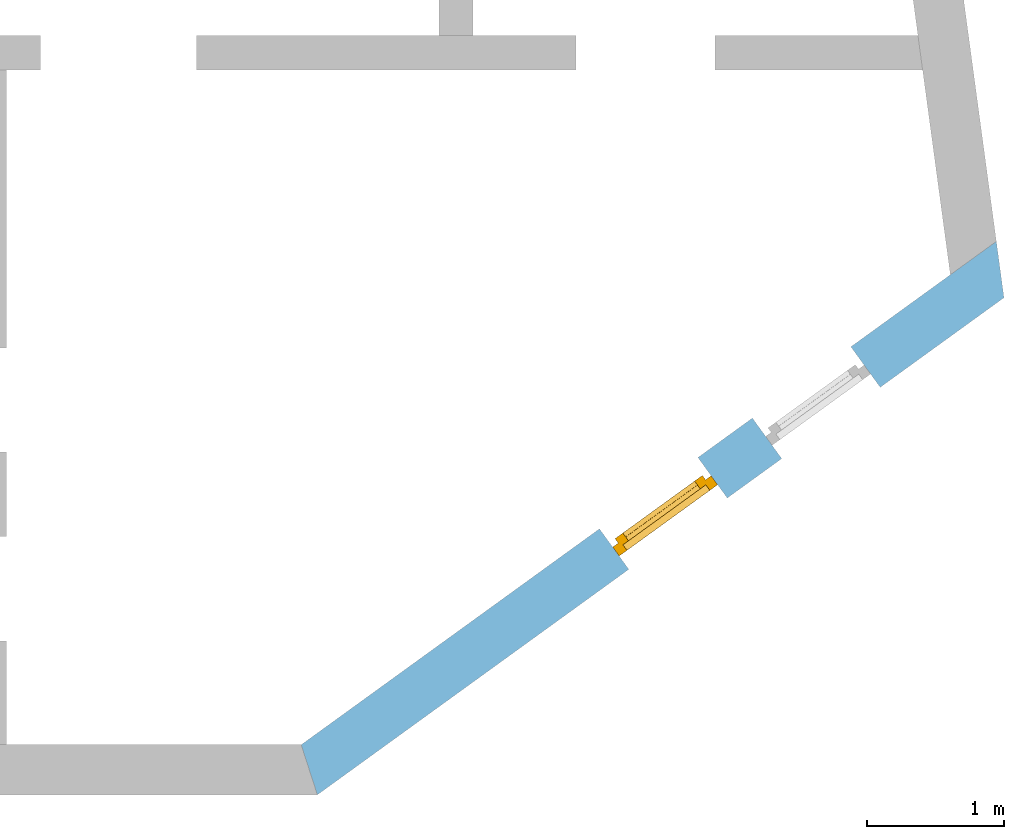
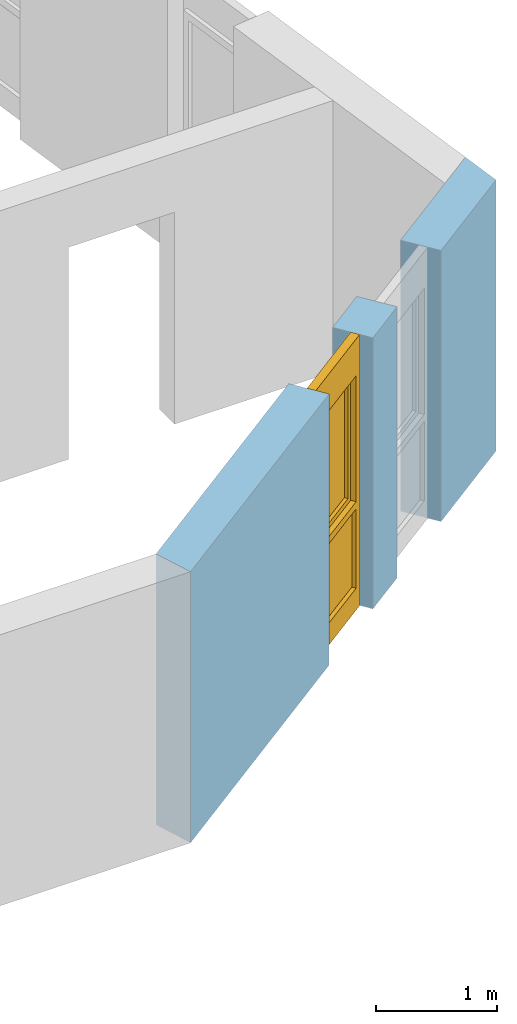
# One storey, part 37 of 41: 1 window, 2 openings, plus 1 element that does not belong to this part.
"""IFC2X3 building model written with IfcOpenShell, lengths in millimetres."""

from ifc_helpers import new_model, entity, si_unit, converted_unit, frame, frame_2d, origin, origin_with_axes, place, context, subcontext, project, spatial, polyline, rectangle, outline, extrude, faceted_brep, material, layer, layer_set, layer_usage, type_object, element, fill, save


model = new_model("IFC2X3")

# Units and contexts
model_context = context("Model", 3, precision=1e-05, world=origin())
body_context = subcontext(model_context, "Body", "Model", "MODEL_VIEW")
ifc_project = project(units=[si_unit("LENGTHUNIT", "METRE", prefix="MILLI"), converted_unit("PLANEANGLEUNIT", "DEGREE", entity("IfcPlaneAngleMeasure", 0.0174532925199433), si_unit("PLANEANGLEUNIT", "RADIAN"), dimensions=[0, 0, 0, 0, 0, 0, 0]), si_unit("AREAUNIT", "SQUARE_METRE"), si_unit("VOLUMEUNIT", "CUBIC_METRE")], contexts=[model_context])

# Building, storey
building_placement = place(None, origin())
building = spatial("IfcBuilding", under=ifc_project, at=building_placement, Name="Gebäude", CompositionType="ELEMENT")
storey_placement = place(building_placement, frame((0.0, 0.0, -200.0), z_axis=(0.0, 0.0, 1.0), x_axis=(1.0, 0.0, 0.0)))
storey = spatial("IfcBuildingStorey", under=building, at=storey_placement, Name="EG.- Grundriss", CompositionType="ELEMENT", Elevation=-200.0)

# Wall, openings, window
ifc_material_1 = material(Name="Poroton")
ifc_layer = layer(ifc_material_1, 364.9999999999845)
ifc_layer_set = layer_set([ifc_layer])
ifc_layer_usage = layer_usage(ifc_layer_set, "AXIS2", "POSITIVE", 0.0)
wall_placement = place(storey_placement, frame((180502.7928055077, 125274.8877315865, 0.0), z_axis=(0.0, 0.0, 1.0), x_axis=(0.8099951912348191, 0.5864365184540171, 0.0)))
wall = element("IfcWallStandardCase", 1, at=wall_placement, inside=storey, material=ifc_layer_usage, Name="<Unnamed Element>", context=body_context, shape_type="SweptSolid", body=[
    extrude(outline(polyline([(0.0, 0.0), (6172.876154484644, 0.0), (6368.596706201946, 364.9999999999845), (118.2596121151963, 365.0000000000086), (0.0, 0.0)])), origin_with_axes(), (0.0, 0.0, 1.0), 2730.0),
])
opening_1_placement = place(wall_placement, frame((4174.999999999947, 1.546140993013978e-11, 0.0), z_axis=(0.0, 1.0, 0.0), x_axis=(0.0, 0.0, 1.0)))
element("IfcOpeningElement", 2, at=opening_1_placement, cuts=wall, Name="Fensteröffnung", ObjectType="Opening", context=body_context, shape_type="SweptSolid", body=[
    extrude(rectangle(XDim=2730.0, YDim=885.0, at=frame_2d((1365.0, 442.5), x_axis=(1.0, 0.0))), origin_with_axes(), (0.0, 0.0, 1.0), 364.9999999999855),
])
opening_2_placement = place(wall_placement, frame((2799.999999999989, 2.023625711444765e-11, 0.0), z_axis=(0.0, 1.0, 0.0), x_axis=(0.0, 0.0, 1.0)))
opening_2 = element("IfcOpeningElement", 3, at=opening_2_placement, cuts=wall, Name="Fensteröffnung", ObjectType="Opening", context=body_context, shape_type="SweptSolid", body=[
    extrude(rectangle(XDim=2730.0, YDim=884.9999999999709, at=frame_2d((1365.0, 442.4999999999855), x_axis=(1.0, 0.0))), origin_with_axes(), (0.0, 0.0, 1.0), 365.0),
])
ifc_material_2 = material()
window_style = type_object("IfcWindowStyle", Name="Fenster", ConstructionType="NOTDEFINED", OperationType="USERDEFINED", ParameterTakesPrecedence=False, Sizeable=False)
window_placement = place(opening_2_placement, frame((0.0, 0.0, 0.0), z_axis=(1.0, 0.0, 0.0), x_axis=(0.0, 1.0, 0.0)))
window = element("IfcWindow", 4, at=window_placement, inside=storey, type_object=window_style, material=ifc_material_2, Name="Fenster", OverallHeight=2730.0, OverallWidth=885.0, context=body_context, shape_type="Brep", body=[
    faceted_brep([(-7.016609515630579e-13, 200.0000000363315, 2730.0), (-7.016609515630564e-13, 200.0000000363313, -2.449293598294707e-15), (69.99999999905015, 200.0000000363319, -2.449293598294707e-15), (69.99999999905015, 200.0000000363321, 2730.0), (0.0, 120.0000000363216, 2.449293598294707e-15), (-1.495680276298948e-27, 120.0000000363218, 2730.0), (69.99999999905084, 120.0000000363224, 2730.0), (69.99999999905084, 120.0000000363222, 2.449293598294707e-15), (-7.016609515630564e-13, 200.0000000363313, -2.449293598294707e-15), (-7.016609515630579e-13, 200.0000000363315, 2730.0), (-1.495680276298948e-27, 120.0000000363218, 2730.0), (0.0, 120.0000000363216, 2.449293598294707e-15), (69.99999999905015, 200.0000000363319, -2.449293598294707e-15), (-7.016609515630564e-13, 200.0000000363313, -2.449293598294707e-15), (0.0, 120.0000000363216, 2.449293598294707e-15), (69.99999999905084, 120.0000000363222, 2.449293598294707e-15), (69.99999999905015, 200.0000000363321, 2730.0), (69.99999999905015, 200.0000000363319, -2.449293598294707e-15), (69.99999999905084, 120.0000000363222, 2.449293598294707e-15), (69.99999999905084, 120.0000000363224, 2730.0), (-7.016609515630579e-13, 200.0000000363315, 2730.0), (69.99999999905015, 200.0000000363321, 2730.0), (69.99999999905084, 120.0000000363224, 2730.0), (-1.495680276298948e-27, 120.0000000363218, 2730.0)], [[[0, 1, 2, 3]], [[4, 5, 6, 7]], [[8, 9, 10, 11]], [[12, 13, 14, 15]], [[16, 17, 18, 19]], [[20, 21, 22, 23]]], orient=[[False], [False], [False], [False], [False], [False]]),
    faceted_brep([(815.0000000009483, 200.0000000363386, 2730.0), (815.0000000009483, 200.0000000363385, -2.449293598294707e-15), (884.9999999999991, 200.0000000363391, -2.449293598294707e-15), (884.9999999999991, 200.0000000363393, 2730.0), (815.000000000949, 120.0000000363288, 2.449293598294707e-15), (815.000000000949, 120.0000000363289, 2730.0), (884.9999999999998, 120.0000000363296, 2730.0), (884.9999999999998, 120.0000000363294, 2.449293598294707e-15), (815.0000000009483, 200.0000000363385, -2.449293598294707e-15), (815.0000000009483, 200.0000000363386, 2730.0), (815.000000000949, 120.0000000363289, 2730.0), (815.000000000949, 120.0000000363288, 2.449293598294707e-15), (884.9999999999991, 200.0000000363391, -2.449293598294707e-15), (815.0000000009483, 200.0000000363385, -2.449293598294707e-15), (815.000000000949, 120.0000000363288, 2.449293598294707e-15), (884.9999999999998, 120.0000000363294, 2.449293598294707e-15), (884.9999999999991, 200.0000000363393, 2730.0), (884.9999999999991, 200.0000000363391, -2.449293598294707e-15), (884.9999999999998, 120.0000000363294, 2.449293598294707e-15), (884.9999999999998, 120.0000000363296, 2730.0), (815.0000000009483, 200.0000000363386, 2730.0), (884.9999999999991, 200.0000000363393, 2730.0), (884.9999999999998, 120.0000000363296, 2730.0), (815.000000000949, 120.0000000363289, 2730.0)], [[[0, 1, 2, 3]], [[4, 5, 6, 7]], [[8, 9, 10, 11]], [[12, 13, 14, 15]], [[16, 17, 18, 19]], [[20, 21, 22, 23]]], orient=[[False], [False], [False], [False], [False], [False]]),
    faceted_brep([(69.99999999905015, 200.0000000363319, 220.0), (69.99999999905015, 200.0000000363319, -2.449293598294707e-15), (815.0000000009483, 200.0000000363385, -2.449293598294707e-15), (815.0000000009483, 200.0000000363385, 220.0), (69.99999999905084, 120.0000000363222, 2.449293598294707e-15), (69.99999999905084, 120.0000000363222, 220.0), (815.000000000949, 120.0000000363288, 220.0), (815.000000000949, 120.0000000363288, 2.449293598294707e-15), (69.99999999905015, 200.0000000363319, -2.449293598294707e-15), (69.99999999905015, 200.0000000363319, 220.0), (69.99999999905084, 120.0000000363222, 220.0), (69.99999999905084, 120.0000000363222, 2.449293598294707e-15), (815.0000000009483, 200.0000000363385, -2.449293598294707e-15), (69.99999999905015, 200.0000000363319, -2.449293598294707e-15), (69.99999999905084, 120.0000000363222, 2.449293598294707e-15), (815.000000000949, 120.0000000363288, 2.449293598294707e-15), (815.0000000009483, 200.0000000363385, 220.0), (815.0000000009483, 200.0000000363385, -2.449293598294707e-15), (815.000000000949, 120.0000000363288, 2.449293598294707e-15), (815.000000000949, 120.0000000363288, 220.0), (69.99999999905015, 200.0000000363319, 220.0), (815.0000000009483, 200.0000000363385, 220.0), (815.000000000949, 120.0000000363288, 220.0), (69.99999999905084, 120.0000000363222, 220.0)], [[[0, 1, 2, 3]], [[4, 5, 6, 7]], [[8, 9, 10, 11]], [[12, 13, 14, 15]], [[16, 17, 18, 19]], [[20, 21, 22, 23]]], orient=[[False], [False], [False], [False], [False], [False]]),
    faceted_brep([(69.99999999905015, 200.0000000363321, 2730.0), (69.99999999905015, 200.000000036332, 2360.0), (815.0000000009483, 200.0000000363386, 2360.0), (815.0000000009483, 200.0000000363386, 2730.0), (69.99999999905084, 120.0000000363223, 2360.0), (69.99999999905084, 120.0000000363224, 2730.0), (815.000000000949, 120.0000000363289, 2730.0), (815.000000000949, 120.0000000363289, 2360.0), (69.99999999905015, 200.000000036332, 2360.0), (69.99999999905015, 200.0000000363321, 2730.0), (69.99999999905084, 120.0000000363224, 2730.0), (69.99999999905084, 120.0000000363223, 2360.0), (815.0000000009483, 200.0000000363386, 2360.0), (69.99999999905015, 200.000000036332, 2360.0), (69.99999999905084, 120.0000000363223, 2360.0), (815.000000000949, 120.0000000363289, 2360.0), (815.0000000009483, 200.0000000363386, 2730.0), (815.0000000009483, 200.0000000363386, 2360.0), (815.000000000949, 120.0000000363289, 2360.0), (815.000000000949, 120.0000000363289, 2730.0), (69.99999999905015, 200.0000000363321, 2730.0), (815.0000000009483, 200.0000000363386, 2730.0), (815.000000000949, 120.0000000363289, 2730.0), (69.99999999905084, 120.0000000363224, 2730.0)], [[[0, 1, 2, 3]], [[4, 5, 6, 7]], [[8, 9, 10, 11]], [[12, 13, 14, 15]], [[16, 17, 18, 19]], [[20, 21, 22, 23]]], orient=[[False], [False], [False], [False], [False], [False]]),
    faceted_brep([(69.99999999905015, 200.000000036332, 1090.0), (69.99999999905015, 200.000000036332, 1020.0), (815.0000000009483, 200.0000000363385, 1020.0), (815.0000000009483, 200.0000000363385, 1090.0), (69.99999999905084, 120.0000000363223, 1020.0), (69.99999999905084, 120.0000000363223, 1090.0), (815.000000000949, 120.0000000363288, 1090.0), (815.000000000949, 120.0000000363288, 1020.0), (69.99999999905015, 200.000000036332, 1020.0), (69.99999999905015, 200.000000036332, 1090.0), (69.99999999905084, 120.0000000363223, 1090.0), (69.99999999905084, 120.0000000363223, 1020.0), (815.0000000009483, 200.0000000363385, 1020.0), (69.99999999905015, 200.000000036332, 1020.0), (69.99999999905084, 120.0000000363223, 1020.0), (815.000000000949, 120.0000000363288, 1020.0), (815.0000000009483, 200.0000000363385, 1090.0), (815.0000000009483, 200.0000000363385, 1020.0), (815.000000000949, 120.0000000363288, 1020.0), (815.000000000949, 120.0000000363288, 1090.0), (69.99999999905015, 200.000000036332, 1090.0), (815.0000000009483, 200.0000000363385, 1090.0), (815.000000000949, 120.0000000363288, 1090.0), (69.99999999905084, 120.0000000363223, 1090.0)], [[[0, 1, 2, 3]], [[4, 5, 6, 7]], [[8, 9, 10, 11]], [[12, 13, 14, 15]], [[16, 17, 18, 19]], [[20, 21, 22, 23]]], orient=[[False], [False], [False], [False], [False], [False]]),
    faceted_brep([(69.99999999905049, 160.0000000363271, 220.0), (815.0000000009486, 160.0000000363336, 220.0), (815.0000000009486, 160.0000000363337, 1020.0), (69.99999999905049, 160.0000000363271, 1020.0), (69.9999999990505, 159.0000000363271, 220.0), (69.9999999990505, 159.0000000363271, 1020.0), (815.0000000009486, 159.0000000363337, 1020.0), (815.0000000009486, 159.0000000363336, 220.0), (69.99999999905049, 160.0000000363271, 220.0), (69.9999999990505, 159.0000000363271, 220.0), (815.0000000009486, 159.0000000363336, 220.0), (815.0000000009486, 160.0000000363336, 220.0), (815.0000000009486, 160.0000000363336, 220.0), (815.0000000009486, 159.0000000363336, 220.0), (815.0000000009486, 159.0000000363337, 1020.0), (815.0000000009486, 160.0000000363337, 1020.0), (815.0000000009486, 160.0000000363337, 1020.0), (815.0000000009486, 159.0000000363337, 1020.0), (69.9999999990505, 159.0000000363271, 1020.0), (69.99999999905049, 160.0000000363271, 1020.0), (69.99999999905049, 160.0000000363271, 1020.0), (69.9999999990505, 159.0000000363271, 1020.0), (69.9999999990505, 159.0000000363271, 220.0), (69.99999999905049, 160.0000000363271, 220.0)], [[[0, 1, 2, 3]], [[4, 5, 6, 7]], [[8, 9, 10, 11]], [[12, 13, 14, 15]], [[16, 17, 18, 19]], [[20, 21, 22, 23]]], orient=[[False], [False], [False], [False], [False], [False]]),
    faceted_brep([(49.99999999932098, 240.0000000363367, 2380.0), (49.99999999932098, 240.0000000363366, 1070.0), (119.9999999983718, 240.0000000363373, 1070.0), (119.9999999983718, 240.0000000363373, 2380.0), (49.99999999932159, 170.0000000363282, 1070.0), (49.99999999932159, 170.0000000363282, 2380.0), (119.9999999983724, 170.0000000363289, 2380.0), (119.9999999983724, 170.0000000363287, 1070.0), (49.99999999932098, 240.0000000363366, 1070.0), (49.99999999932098, 240.0000000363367, 2380.0), (49.99999999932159, 170.0000000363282, 2380.0), (49.99999999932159, 170.0000000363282, 1070.0), (119.9999999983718, 240.0000000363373, 1070.0), (49.99999999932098, 240.0000000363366, 1070.0), (49.99999999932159, 170.0000000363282, 1070.0), (119.9999999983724, 170.0000000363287, 1070.0), (119.9999999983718, 240.0000000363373, 2380.0), (119.9999999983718, 240.0000000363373, 1070.0), (119.9999999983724, 170.0000000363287, 1070.0), (119.9999999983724, 170.0000000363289, 2380.0), (49.99999999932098, 240.0000000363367, 2380.0), (119.9999999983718, 240.0000000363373, 2380.0), (119.9999999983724, 170.0000000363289, 2380.0), (49.99999999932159, 170.0000000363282, 2380.0)], [[[0, 1, 2, 3]], [[4, 5, 6, 7]], [[8, 9, 10, 11]], [[12, 13, 14, 15]], [[16, 17, 18, 19]], [[20, 21, 22, 23]]], orient=[[False], [False], [False], [False], [False], [False]]),
    faceted_brep([(765.0000000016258, 240.000000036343, 2380.0), (765.0000000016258, 240.000000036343, 1070.0), (835.0000000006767, 240.0000000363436, 1070.0), (835.0000000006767, 240.0000000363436, 2380.0), (765.0000000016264, 170.0000000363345, 1070.0), (765.0000000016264, 170.0000000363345, 2380.0), (835.0000000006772, 170.0000000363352, 2380.0), (835.0000000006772, 170.0000000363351, 1070.0), (765.0000000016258, 240.000000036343, 1070.0), (765.0000000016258, 240.000000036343, 2380.0), (765.0000000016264, 170.0000000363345, 2380.0), (765.0000000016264, 170.0000000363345, 1070.0), (835.0000000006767, 240.0000000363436, 1070.0), (765.0000000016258, 240.000000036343, 1070.0), (765.0000000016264, 170.0000000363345, 1070.0), (835.0000000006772, 170.0000000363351, 1070.0), (835.0000000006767, 240.0000000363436, 2380.0), (835.0000000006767, 240.0000000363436, 1070.0), (835.0000000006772, 170.0000000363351, 1070.0), (835.0000000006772, 170.0000000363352, 2380.0), (765.0000000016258, 240.000000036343, 2380.0), (835.0000000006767, 240.0000000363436, 2380.0), (835.0000000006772, 170.0000000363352, 2380.0), (765.0000000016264, 170.0000000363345, 2380.0)], [[[0, 1, 2, 3]], [[4, 5, 6, 7]], [[8, 9, 10, 11]], [[12, 13, 14, 15]], [[16, 17, 18, 19]], [[20, 21, 22, 23]]], orient=[[False], [False], [False], [False], [False], [False]]),
    faceted_brep([(119.9999999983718, 240.0000000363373, 1140.0), (119.9999999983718, 240.0000000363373, 1070.0), (765.0000000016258, 240.000000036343, 1070.0), (765.0000000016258, 240.000000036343, 1140.0), (119.9999999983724, 170.0000000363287, 1070.0), (119.9999999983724, 170.0000000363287, 1140.0), (765.0000000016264, 170.0000000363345, 1140.0), (765.0000000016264, 170.0000000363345, 1070.0), (119.9999999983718, 240.0000000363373, 1070.0), (119.9999999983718, 240.0000000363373, 1140.0), (119.9999999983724, 170.0000000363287, 1140.0), (119.9999999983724, 170.0000000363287, 1070.0), (765.0000000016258, 240.000000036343, 1070.0), (119.9999999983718, 240.0000000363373, 1070.0), (119.9999999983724, 170.0000000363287, 1070.0), (765.0000000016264, 170.0000000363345, 1070.0), (765.0000000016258, 240.000000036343, 1140.0), (765.0000000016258, 240.000000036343, 1070.0), (765.0000000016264, 170.0000000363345, 1070.0), (765.0000000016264, 170.0000000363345, 1140.0), (119.9999999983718, 240.0000000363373, 1140.0), (765.0000000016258, 240.000000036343, 1140.0), (765.0000000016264, 170.0000000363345, 1140.0), (119.9999999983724, 170.0000000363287, 1140.0)], [[[0, 1, 2, 3]], [[4, 5, 6, 7]], [[8, 9, 10, 11]], [[12, 13, 14, 15]], [[16, 17, 18, 19]], [[20, 21, 22, 23]]], orient=[[False], [False], [False], [False], [False], [False]]),
    faceted_brep([(119.9999999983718, 240.0000000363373, 2380.0), (119.9999999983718, 240.0000000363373, 2310.0), (765.0000000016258, 240.000000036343, 2310.0), (765.0000000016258, 240.000000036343, 2380.0), (119.9999999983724, 170.0000000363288, 2310.0), (119.9999999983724, 170.0000000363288, 2380.0), (765.0000000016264, 170.0000000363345, 2380.0), (765.0000000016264, 170.0000000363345, 2310.0), (119.9999999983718, 240.0000000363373, 2310.0), (119.9999999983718, 240.0000000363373, 2380.0), (119.9999999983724, 170.0000000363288, 2380.0), (119.9999999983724, 170.0000000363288, 2310.0), (765.0000000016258, 240.000000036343, 2310.0), (119.9999999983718, 240.0000000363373, 2310.0), (119.9999999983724, 170.0000000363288, 2310.0), (765.0000000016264, 170.0000000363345, 2310.0), (765.0000000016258, 240.000000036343, 2380.0), (765.0000000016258, 240.000000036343, 2310.0), (765.0000000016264, 170.0000000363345, 2310.0), (765.0000000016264, 170.0000000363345, 2380.0), (119.9999999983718, 240.0000000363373, 2380.0), (765.0000000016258, 240.000000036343, 2380.0), (765.0000000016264, 170.0000000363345, 2380.0), (119.9999999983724, 170.0000000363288, 2380.0)], [[[0, 1, 2, 3]], [[4, 5, 6, 7]], [[8, 9, 10, 11]], [[12, 13, 14, 15]], [[16, 17, 18, 19]], [[20, 21, 22, 23]]], orient=[[False], [False], [False], [False], [False], [False]]),
    faceted_brep([(119.9999999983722, 205.000000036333, 1140.0), (765.0000000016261, 205.0000000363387, 1140.0), (765.0000000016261, 205.0000000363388, 2310.0), (119.9999999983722, 205.0000000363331, 2310.0), (119.9999999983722, 204.000000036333, 1140.0), (119.9999999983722, 204.0000000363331, 2310.0), (765.0000000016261, 204.0000000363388, 2310.0), (765.0000000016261, 204.0000000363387, 1140.0), (119.9999999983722, 205.000000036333, 1140.0), (119.9999999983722, 204.000000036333, 1140.0), (765.0000000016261, 204.0000000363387, 1140.0), (765.0000000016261, 205.0000000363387, 1140.0), (765.0000000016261, 205.0000000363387, 1140.0), (765.0000000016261, 204.0000000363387, 1140.0), (765.0000000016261, 204.0000000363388, 2310.0), (765.0000000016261, 205.0000000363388, 2310.0), (765.0000000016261, 205.0000000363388, 2310.0), (765.0000000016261, 204.0000000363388, 2310.0), (119.9999999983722, 204.0000000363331, 2310.0), (119.9999999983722, 205.0000000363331, 2310.0), (119.9999999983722, 205.0000000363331, 2310.0), (119.9999999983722, 204.0000000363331, 2310.0), (119.9999999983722, 204.000000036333, 1140.0), (119.9999999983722, 205.000000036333, 1140.0)], [[[0, 1, 2, 3]], [[4, 5, 6, 7]], [[8, 9, 10, 11]], [[12, 13, 14, 15]], [[16, 17, 18, 19]], [[20, 21, 22, 23]]], orient=[[False], [False], [False], [False], [False], [False]]),
])
fill(opening_2, window)

save(model, "model.ifc")
